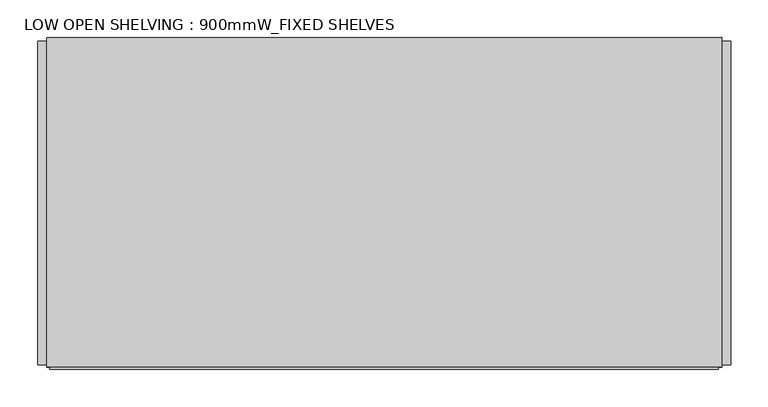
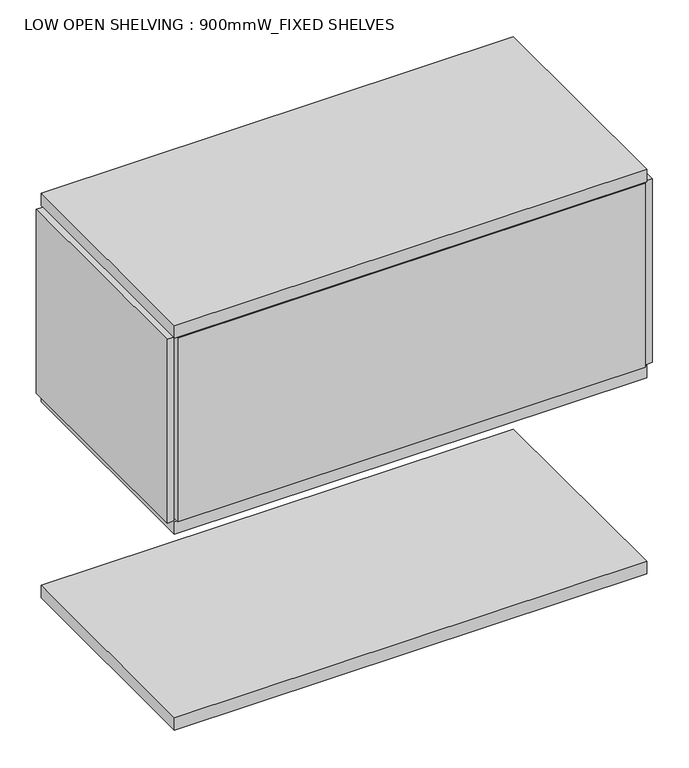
"""IFC4 building model written with IfcOpenShell, lengths in millimetres: furniture geometry, LOW OPEN SHELVING : 900mmW_FIXED SHELVES."""

from ifc_helpers import new_model, si_unit, frame, origin, place, context, project, spatial, polyline, outline, extrude, source, transform, mapped, element, save


def low_open_shelving_900mmw_fixed_shelves_9d853bdd(model_context):
    return source(origin(), model_context, "Body", "SweptSolid", [
        extrude(outline(polyline([(462.0, 214.7757931), (462.0, -217.1931665), (450.0, -217.1931665), (450.0, 214.7757931), (462.0, 214.7757931)])), frame((0.0, 0.0, 413.0), z_axis=(0.0, 0.0, 1.0), x_axis=(1.0, 0.0, 0.0)), (0.0, 0.0, 1.0), 370.0),
        extrude(outline(polyline([(-450.0, 214.7757931), (-450.0, -217.1931665), (-462.0, -217.1931665), (-462.0, 214.7757931), (-450.0, 214.7757931)])), frame((0.0, 0.0, 413.0), z_axis=(0.0, 0.0, 1.0), x_axis=(1.0, 0.0, 0.0)), (0.0, 0.0, 1.0), 370.0),
        extrude(outline(polyline([(450.0, -220.0), (-450.0, -220.0), (-450.0, 220.0), (450.0, 220.0), (450.0, -220.0)])), frame((0.0, 0.0, -7.0), z_axis=(0.0, 0.0, 1.0), x_axis=(1.0, 0.0, 0.0)), (0.0, 0.0, 1.0), 25.0),
        extrude(outline(polyline([(450.0, -220.0), (-450.0, -220.0), (-450.0, 220.0), (450.0, 220.0), (450.0, -220.0)])), frame((0.0, 0.0, 388.0), z_axis=(0.0, 0.0, 1.0), x_axis=(1.0, 0.0, 0.0)), (0.0, 0.0, 1.0), 25.0),
        extrude(outline(polyline([(450.0, -220.0), (-450.0, -220.0), (-450.0, 220.0), (450.0, 220.0), (450.0, -220.0)])), frame((0.0, 0.0, 783.0), z_axis=(0.0, 0.0, 1.0), x_axis=(1.0, 0.0, 0.0)), (0.0, 0.0, 1.0), 25.0),
        extrude(outline(polyline([(445.4939356, -222.7282814), (-445.4939356, -222.7282814), (-445.4939356, -210.7282814), (445.4939356, -210.7282814), (445.4939356, -222.7282814)])), frame((0.0, 0.0, 413.0), z_axis=(0.0, 0.0, 1.0), x_axis=(1.0, 0.0, 0.0)), (0.0, 0.0, 1.0), 370.0),
    ])


if __name__ == "__main__":
    model = new_model("IFC4")
    model_context = context("Model", 3, world=origin())
    ifc_project = project(units=[si_unit("LENGTHUNIT", "METRE", prefix="MILLI")], contexts=[model_context])
    site = spatial("IfcSite", under=ifc_project)
    building = spatial("IfcBuilding", under=site)
    placement = place(None, origin())
    low_open_shelving_900mmw_fixed_shelves_shape = low_open_shelving_900mmw_fixed_shelves_9d853bdd(model_context)
    element("IfcFurniture", 1, ObjectType="LOW OPEN SHELVING : 900mmW_FIXED SHELVES", at=placement, inside=building, context=model_context, shape_type="MappedRepresentation", body=[
        mapped(low_open_shelving_900mmw_fixed_shelves_shape, transform((0.0, 0.0, 0.0), x_axis=(1.0, 0.0, 0.0), y_axis=(0.0, 1.0, 0.0), z_axis=(0.0, 0.0, 1.0))),
    ])
    save(model, "model.ifc")
